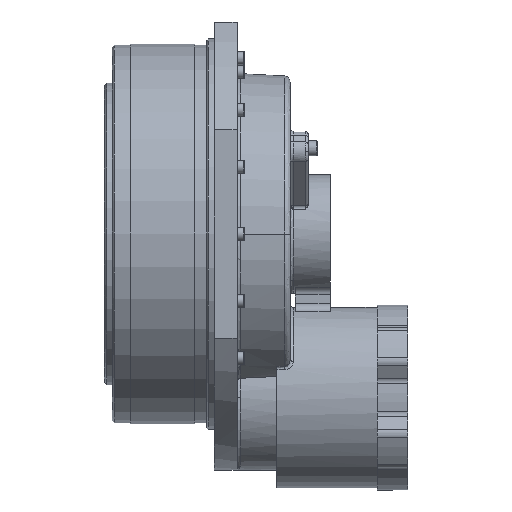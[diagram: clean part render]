
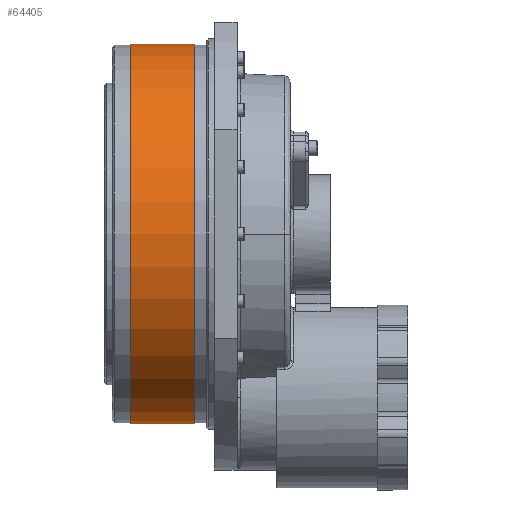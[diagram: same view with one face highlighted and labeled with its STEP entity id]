
A CAD part, front view. The second image highlights one B-rep face of the part: STEP entity #64405.
In plain terms, the highlighted cylindrical face has radius 125.25 mm (diameter 250.5 mm), a partial arc.
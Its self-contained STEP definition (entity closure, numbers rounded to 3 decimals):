
#2194 = AXIS2_PLACEMENT_3D ( 'NONE', #73959, #32628, #46704 ) ;
#5668 = EDGE_CURVE ( 'NONE', #29462, #64407, #48021, .T. ) ;
#6837 = LINE ( 'NONE', #35807, #16683 ) ;
#7555 = EDGE_CURVE ( 'NONE', #63941, #52425, #28087, .T. ) ;
#10964 = CARTESIAN_POINT ( 'NONE',  ( -78.209, 38., 81. ) ) ;
#13511 = DIRECTION ( 'NONE',  ( 0., 0., 1. ) ) ;
#16683 = VECTOR ( 'NONE', #28765, 1000. ) ;
#19951 = DIRECTION ( 'NONE',  ( 1., 0., 0. ) ) ;
#20140 = DIRECTION ( 'NONE',  ( -1., 0., 0. ) ) ;
#28087 = CIRCLE ( 'NONE', #31025, 125.25 ) ;
#28765 = DIRECTION ( 'NONE',  ( -1., 0., 0. ) ) ;
#29462 = VERTEX_POINT ( 'NONE', #52292 ) ;
#31025 = AXIS2_PLACEMENT_3D ( 'NONE', #89769, #19951, #13511 ) ;
#32628 = DIRECTION ( 'NONE',  ( 1., 0., 0. ) ) ;
#33366 = ORIENTED_EDGE ( 'NONE', *, *, #5668, .F. ) ;
#35807 = CARTESIAN_POINT ( 'NONE',  ( -78.209, 38., -44.25 ) ) ;
#38785 = FACE_OUTER_BOUND ( 'NONE', #50492, .T. ) ;
#41723 = ORIENTED_EDGE ( 'NONE', *, *, #7555, .T. ) ;
#44324 = CYLINDRICAL_SURFACE ( 'NONE', #70943, 125.25 ) ;
#46704 = DIRECTION ( 'NONE',  ( 0., 0., 1. ) ) ;
#47721 = DIRECTION ( 'NONE',  ( 0., 0., 1. ) ) ;
#48021 = CIRCLE ( 'NONE', #2194, 125.25 ) ;
#50492 = EDGE_LOOP ( 'NONE', ( #76992, #33366, #81869, #41723 ) ) ;
#52292 = CARTESIAN_POINT ( 'NONE',  ( -57., 38., 206.25 ) ) ;
#52425 = VERTEX_POINT ( 'NONE', #62108 ) ;
#52483 = EDGE_CURVE ( 'NONE', #64407, #52425, #6837, .T. ) ;
#58372 = CARTESIAN_POINT ( 'NONE',  ( -78.209, 38., 206.25 ) ) ;
#60050 = CARTESIAN_POINT ( 'NONE',  ( -99.417, 38., 206.25 ) ) ;
#62108 = CARTESIAN_POINT ( 'NONE',  ( -99.417, 38., -44.25 ) ) ;
#63941 = VERTEX_POINT ( 'NONE', #60050 ) ;
#64405 = ADVANCED_FACE ( 'NONE', ( #38785 ), #44324, .T. ) ;
#64407 = VERTEX_POINT ( 'NONE', #83212 ) ;
#65069 = DIRECTION ( 'NONE',  ( -1., 0., 0. ) ) ;
#69441 = VECTOR ( 'NONE', #65069, 1000. ) ;
#70943 = AXIS2_PLACEMENT_3D ( 'NONE', #10964, #20140, #47721 ) ;
#71656 = LINE ( 'NONE', #58372, #69441 ) ;
#73959 = CARTESIAN_POINT ( 'NONE',  ( -57., 38., 81. ) ) ;
#76992 = ORIENTED_EDGE ( 'NONE', *, *, #52483, .F. ) ;
#79911 = EDGE_CURVE ( 'NONE', #29462, #63941, #71656, .T. ) ;
#81869 = ORIENTED_EDGE ( 'NONE', *, *, #79911, .T. ) ;
#83212 = CARTESIAN_POINT ( 'NONE',  ( -57., 38., -44.25 ) ) ;
#89769 = CARTESIAN_POINT ( 'NONE',  ( -99.417, 38., 81. ) ) ;
